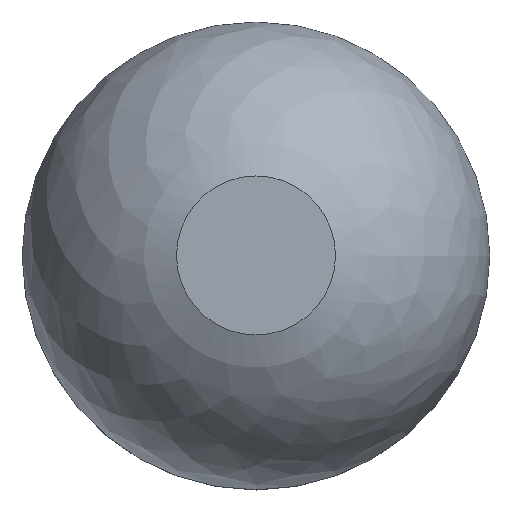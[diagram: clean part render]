
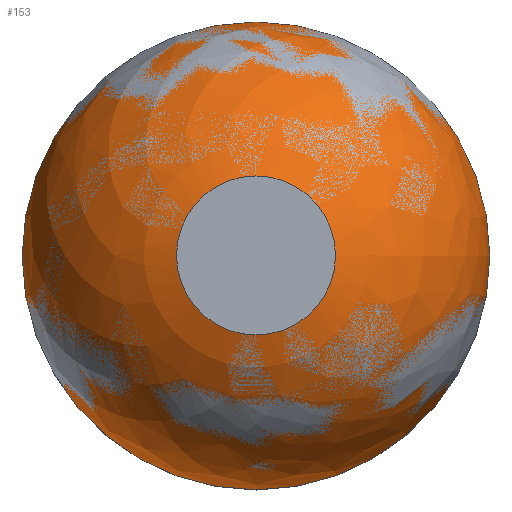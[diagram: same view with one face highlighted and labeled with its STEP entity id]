
A CAD part, top view. The second image highlights one B-rep face of the part: STEP entity #153.
In plain terms, the highlighted face is a revolution surface.
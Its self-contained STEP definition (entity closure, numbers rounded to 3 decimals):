
#108 = VERTEX_POINT('',#109);
#109 = CARTESIAN_POINT('',(25.,0.,49.));
#117 = EDGE_CURVE('',#108,#108,#118,.T.);
#118 = CIRCLE('',#119,25.);
#119 = AXIS2_PLACEMENT_3D('',#120,#121,#122);
#120 = CARTESIAN_POINT('',(0.,0.,49.));
#121 = DIRECTION('',(0.,0.,-1.));
#122 = DIRECTION('',(1.,0.,0.));
#153 = ADVANCED_FACE('',(#154),#174,.F.);
#154 = FACE_BOUND('',#155,.F.);
#155 = EDGE_LOOP('',(#156,#165,#166,#167));
#156 = ORIENTED_EDGE('',*,*,#157,.F.);
#157 = EDGE_CURVE('',#108,#158,#160,.T.);
#158 = VERTEX_POINT('',#159);
#159 = CARTESIAN_POINT('',(8.5,0.,72.));
#160 = CIRCLE('',#161,24.28);
#161 = AXIS2_PLACEMENT_3D('',#162,#163,#164);
#162 = CARTESIAN_POINT('',(0.72,0.,49.));
#163 = DIRECTION('',(0.,-1.,0.));
#164 = DIRECTION('',(1.,0.,0.));
#165 = ORIENTED_EDGE('',*,*,#117,.T.);
#166 = ORIENTED_EDGE('',*,*,#157,.T.);
#167 = ORIENTED_EDGE('',*,*,#168,.F.);
#168 = EDGE_CURVE('',#158,#158,#169,.T.);
#169 = CIRCLE('',#170,8.5);
#170 = AXIS2_PLACEMENT_3D('',#171,#172,#173);
#171 = CARTESIAN_POINT('',(0.,0.,72.));
#172 = DIRECTION('',(0.,0.,-1.));
#173 = DIRECTION('',(1.,0.,0.));
#174 = SURFACE_OF_REVOLUTION('',#175,#180);
#175 = CIRCLE('',#176,24.28);
#176 = AXIS2_PLACEMENT_3D('',#177,#178,#179);
#177 = CARTESIAN_POINT('',(0.72,0.,49.));
#178 = DIRECTION('',(0.,-1.,0.));
#179 = DIRECTION('',(1.,0.,0.));
#180 = AXIS1_PLACEMENT('',#181,#182);
#181 = CARTESIAN_POINT('',(0.,0.,0.));
#182 = DIRECTION('',(0.,0.,-1.));
